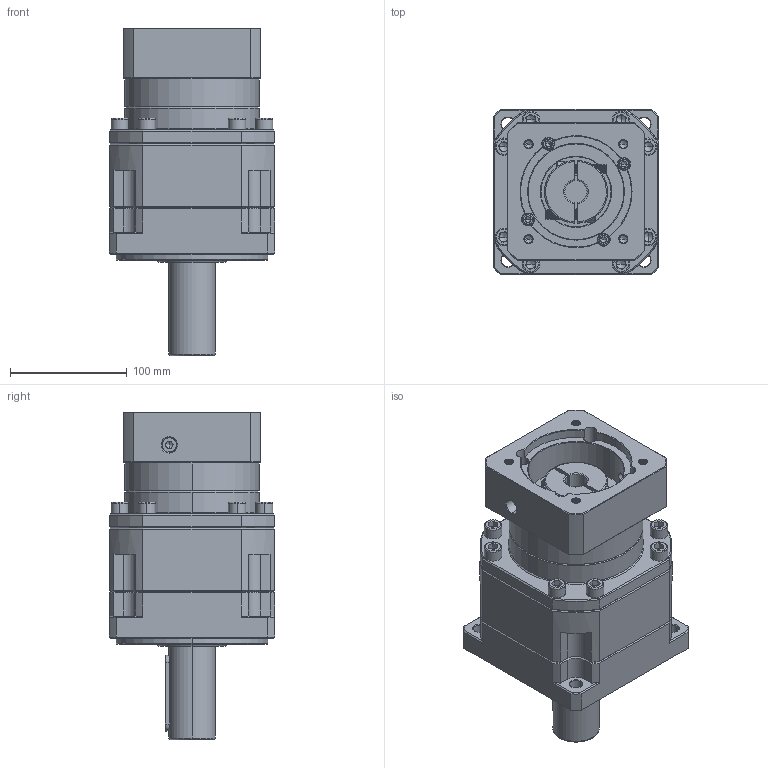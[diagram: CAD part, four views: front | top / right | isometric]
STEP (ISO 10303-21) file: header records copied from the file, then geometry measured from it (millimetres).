
FILE_DESCRIPTION (( 'STEP AP214' ), '1' );
FILE_NAME ('ZB142A-D40-L2-P2-19-95-115-M8.step', '2023-09-02T02:49:33', ( '' ), ( '' ), 'SwSTEP 2.0', 'SolidWorks 2016', '' );
FILE_SCHEMA (( 'AUTOMOTIVE_DESIGN' ));
Length unit declared in the file: millimetre
Products named in the file (1): ZB142A-D40-L2-P2-19-95-115-M8
Bounding box: 142 x 142 x 280.7 mm (x, y, z)
Volume: 2961166.8 mm3; surface area: 239024.5 mm2
Topology: 6 solids, 6 shells, 2566 faces, 6745 edges, 4301 vertices
Faces by surface type: plane 1205, cylinder 497, bspline 425, cone 401, torus 38
Entity records: 136728 total; most frequent: CARTESIAN_POINT 48576, ORIENTED_EDGE 13382, DIRECTION 10944, EDGE_CURVE 6691, VERTEX_POINT 4301, VECTOR 4222, LINE 4222, AXIS2_PLACEMENT_3D 3361
